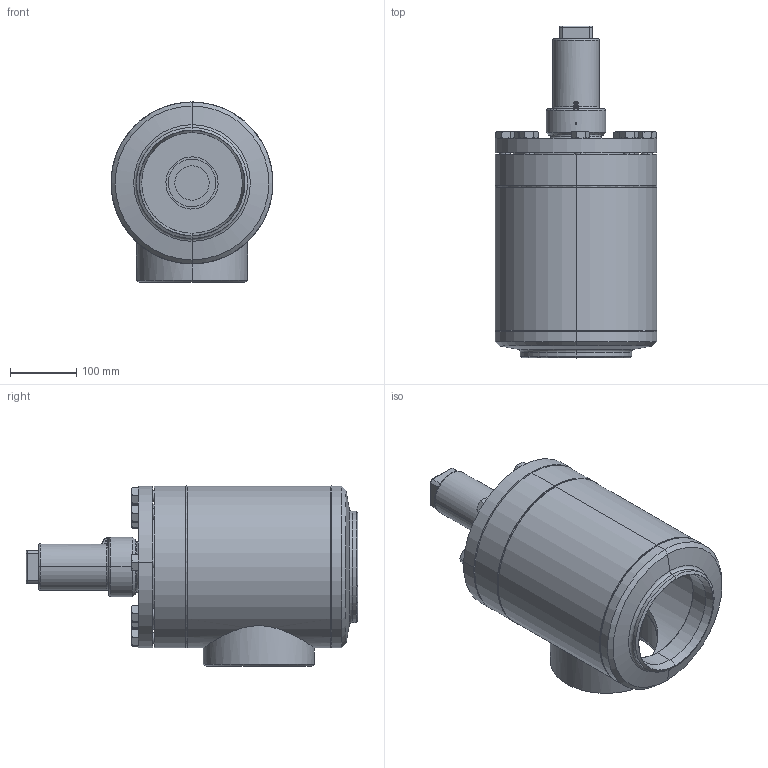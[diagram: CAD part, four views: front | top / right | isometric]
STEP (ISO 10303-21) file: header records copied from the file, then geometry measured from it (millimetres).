
FILE_DESCRIPTION (( 'STEP AP214' ), '1' );
FILE_NAME ('HRAB12400D21A5A3AA00_DN150_R1_PS40.STEP', '2010-06-16T11:41:41', ( 'Eckhard Grams' ), ( 'AWP Kälte Klima Armaturen GmbH' ), 'SwSTEP 2.0', 'SolidWorks 2002296', '' );
FILE_SCHEMA (( 'AUTOMOTIVE_DESIGN' ));
Length unit declared in the file: millimetre
Products named in the file (12): HRAB12400D21A5A3AA00_DN150_R1_PS40; Geh,kpl 16300E21-5030AA1_DN150_R1_Standard; Rohrstutzen-A16300a-21_R1_Standard; bead Geh,kpl 16400-21-2_Standard; bead Geh,kpl 16400-21-1_Standard; Boden16300-DN150_Standard; Gehäuse16300-DN150_Standard; Kopfstück16300-DN150_Standard; AVB16300E21_Deck+Schr-DN150_Standard; Deckel16300E21-DN150_Standard; Sechskantschraube-DIN933_M16x 45; Kappe 16402-21_DN125-150 (M76x3)_Standard
Assembly tree (18 placements, depth 3):
  HRAB12400D21A5A3AA00_DN150_R1_PS40
    Kappe 16402-21_DN125-150 (M76x3)_Standard
    Geh,kpl 16300E21-5030AA1_DN150_R1_Standard
      Gehäuse16300-DN150_Standard
      bead Geh,kpl 16400-21-2_Standard
      Boden16300-DN150_Standard
      Rohrstutzen-A16300a-21_R1_Standard
      bead Geh,kpl 16400-21-1_Standard
      Kopfstück16300-DN150_Standard
    AVB16300E21_Deck+Schr-DN150_Standard
      Sechskantschraube-DIN933_M16x 45  x8
      Deckel16300E21-DN150_Standard
Bounding box: 245.26 x 502.5 x 272.64 mm (x, y, z)
Volume: 5821251.1 mm3; surface area: 940645.2 mm2
Topology: 16 solids, 16 shells, 384 faces, 823 edges, 489 vertices
Faces by surface type: cone 130, plane 113, cylinder 104, bspline 19, torus 18
Entity records: 12846 total; most frequent: CARTESIAN_POINT 7432, DIRECTION 1021, ORIENTED_EDGE 918, EDGE_CURVE 459, AXIS2_PLACEMENT_3D 443, VERTEX_POINT 279, EDGE_LOOP 254, CIRCLE 230
